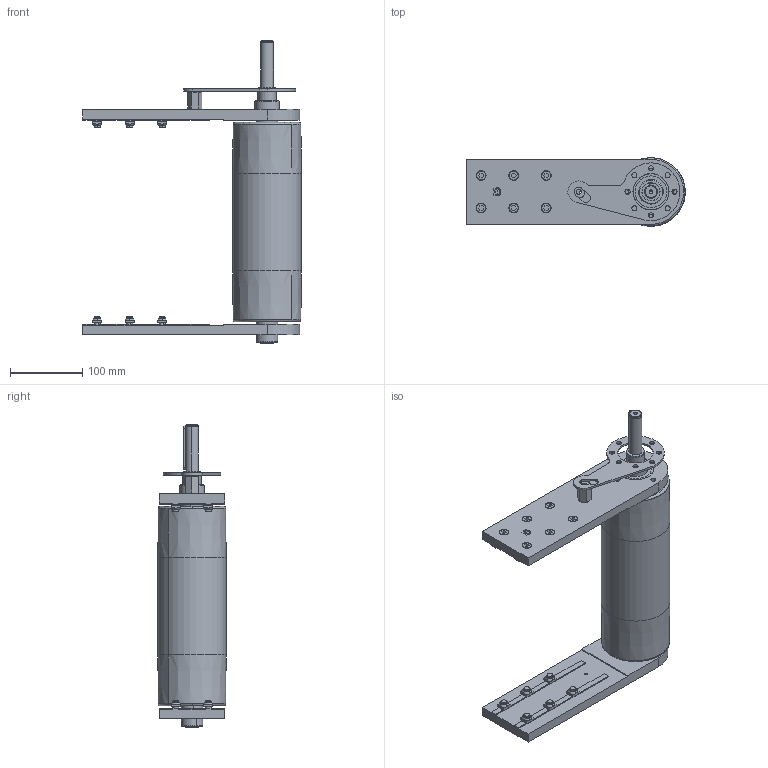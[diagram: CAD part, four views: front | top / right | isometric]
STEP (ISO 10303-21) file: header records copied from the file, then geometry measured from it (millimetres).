
FILE_DESCRIPTION (( 'STEP AP203' ), '1' );
FILE_NAME ('084.095.KD.44.250.STEP', '2019-09-03T13:07:02', ( 'Localadmin' ), ( 'Microsoft' ), 'SwSTEP 2.0', 'SolidWorks 2018', '' );
FILE_SCHEMA (( 'CONFIG_CONTROL_DESIGN' ));
Length unit declared in the file: millimetre
Products named in the file (15): 084.095.KD.44.250; 084.812.003; 084.808.003_084.808.003; 084.808.002_084.808.002; 084.802.027; 084.810.003; 084.807.005; 084.802.019_084.802.019; 084.812.001; CHIAVETTE_A 6x6x60 UNI 6604-69; 084.802.034_084.802.034; Circlip DIN 471 - 30 x 1.5_Circlip DIN 471 - 30 x 1.5; 084.301.000 VITI ALUSIC_084.301.003; 084.816.111_084.816.107<A macchina>; 084.302.000 DADI ALUSIC 13x13_084.302.004
Assembly tree (38 placements, depth 2):
  084.095.KD.44.250
    084.802.027
    084.807.005
    084.812.001
    084.802.034_084.802.034
    084.301.000 VITI ALUSIC_084.301.003  x12
    084.302.000 DADI ALUSIC 13x13_084.302.004  x12
    084.812.003
    084.808.003_084.808.003
    084.808.002_084.808.002
    084.810.003  x2
    084.802.019_084.802.019
    CHIAVETTE_A 6x6x60 UNI 6604-69
    Circlip DIN 471 - 30 x 1.5_Circlip DIN 471 - 30 x 1.5  x2
    084.816.111_084.816.107<A macchina>
Bounding box: 302.41 x 94.82 x 418.5 mm (x, y, z)
Volume: 1459629.3 mm3; surface area: 536043.2 mm2
Topology: 43 solids, 44 shells, 1023 faces, 2560 edges, 1663 vertices
Faces by surface type: plane 457, cylinder 341, torus 92, cone 76, bspline 48, sphere 9
Entity records: 22007 total; most frequent: CARTESIAN_POINT 4393, DIRECTION 3334, ORIENTED_EDGE 3132, EDGE_CURVE 1566, AXIS2_PLACEMENT_3D 1313, VERTEX_POINT 1020, EDGE_LOOP 734, CIRCLE 711
